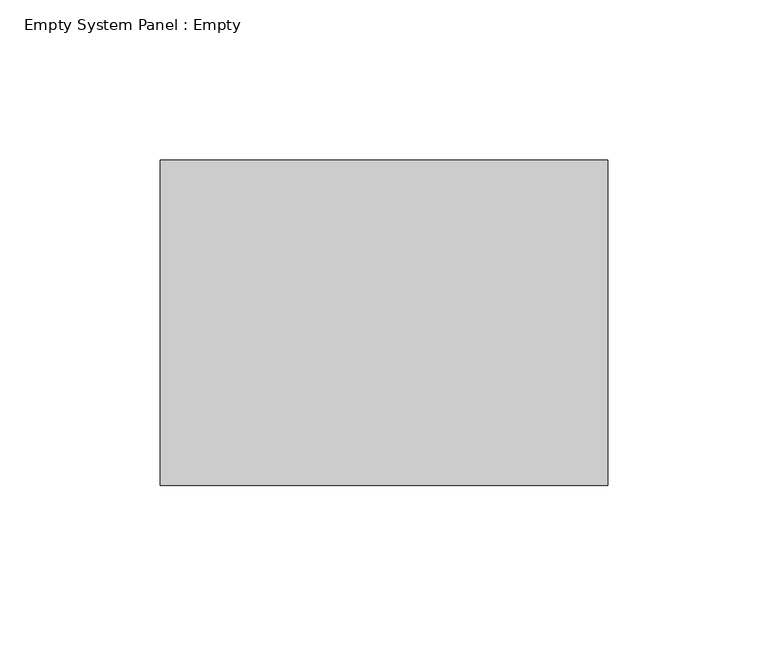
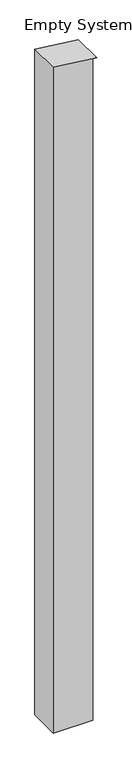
"""IFC4 building model written with IfcOpenShell, lengths in millimetres: plate geometry, Empty System Panel : Empty."""

from ifc_helpers import new_model, si_unit, frame, origin, place, context, project, spatial, polyline, outline, extrude, source, transform, mapped, element, save


def empty_system_panel_empty_11bf43e3(model_context):
    return source(origin(), model_context, "Body", "SweptSolid", [
        extrude(outline(polyline([(0.0, -69.85), (0.0, 57.15), (2247.0324985, 57.15), (2247.0324985, 69.85), (2262.6576885, -69.85), (0.0, -69.85)])), frame((0.0, -50.8, 0.0), z_axis=(0.0, 1.0, 0.0), x_axis=(0.0, 0.0, 1.0)), (0.0, 0.0, 1.0), 101.6),
    ])


if __name__ == "__main__":
    model = new_model("IFC4")
    model_context = context("Model", 3, world=origin())
    ifc_project = project(units=[si_unit("LENGTHUNIT", "METRE", prefix="MILLI")], contexts=[model_context])
    site = spatial("IfcSite", under=ifc_project)
    building = spatial("IfcBuilding", under=site)
    placement = place(None, origin())
    empty_system_panel_empty_shape = empty_system_panel_empty_11bf43e3(model_context)
    element("IfcPlate", 1, ObjectType="Empty System Panel : Empty", at=placement, inside=building, context=model_context, shape_type="MappedRepresentation", body=[
        mapped(empty_system_panel_empty_shape, transform((0.0, 0.0, 0.0), x_axis=(1.0, 0.0, 0.0), y_axis=(0.0, 1.0, 0.0), z_axis=(0.0, 0.0, 1.0))),
    ])
    save(model, "model.ifc")
